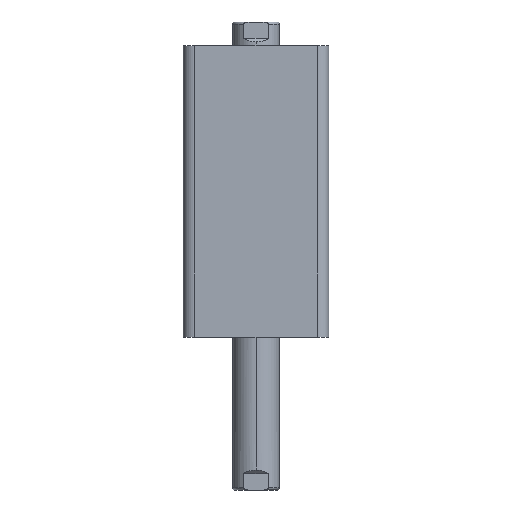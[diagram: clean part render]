
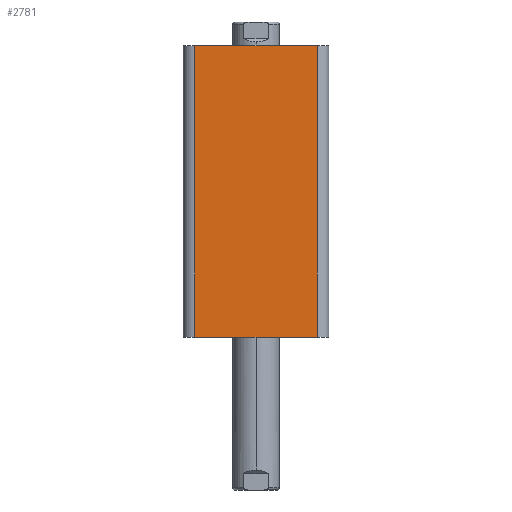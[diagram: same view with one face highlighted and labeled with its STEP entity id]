
A CAD part, left-side view. The second image highlights one B-rep face of the part: STEP entity #2781.
In plain terms, the highlighted planar face has unit normal (-1, 0, 0).
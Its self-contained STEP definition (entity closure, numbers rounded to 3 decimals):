
#83 = VERTEX_POINT ( 'NONE', #320 ) ;
#84 = VERTEX_POINT ( 'NONE', #315 ) ;
#88 = VERTEX_POINT ( 'NONE', #316 ) ;
#89 = VERTEX_POINT ( 'NONE', #321 ) ;
#315 = CARTESIAN_POINT ( 'NONE',  ( -31., 26., 124. ) ) ;
#316 = CARTESIAN_POINT ( 'NONE',  ( -31., -26., 0. ) ) ;
#320 = CARTESIAN_POINT ( 'NONE',  ( -31., -26., 124. ) ) ;
#321 = CARTESIAN_POINT ( 'NONE',  ( -31., 26., 0. ) ) ;
#475 = CARTESIAN_POINT ( 'NONE',  ( -31., 31., 124. ) ) ;
#483 = PLANE ( 'NONE',  #2508 ) ;
#485 = DIRECTION ( 'NONE',  ( 1., 0., 0. ) ) ;
#486 = DIRECTION ( 'NONE',  ( 0., 1., 0. ) ) ;
#732 = LINE ( 'NONE', #2934, #742 ) ;
#737 = LINE ( 'NONE', #2945, #740 ) ;
#740 = VECTOR ( 'NONE', #2946, 1000. ) ;
#741 = LINE ( 'NONE', #2948, #744 ) ;
#742 = VECTOR ( 'NONE', #2947, 1000. ) ;
#743 = LINE ( 'NONE', #2950, #746 ) ;
#744 = VECTOR ( 'NONE', #2949, 1000. ) ;
#746 = VECTOR ( 'NONE', #2951, 1000. ) ;
#1081 = EDGE_CURVE ( 'NONE', #89, #88, #737, .T. ) ;
#1082 = EDGE_CURVE ( 'NONE', #88, #83, #732, .T. ) ;
#1083 = EDGE_CURVE ( 'NONE', #84, #83, #741, .T. ) ;
#1084 = EDGE_CURVE ( 'NONE', #84, #89, #743, .T. ) ;
#1512 = FACE_OUTER_BOUND ( 'NONE', #1588, .T. ) ;
#1588 = EDGE_LOOP ( 'NONE', ( #1623, #1625, #1626, #1635 ) ) ;
#1623 = ORIENTED_EDGE ( 'NONE', *, *, #1081, .T. ) ;
#1625 = ORIENTED_EDGE ( 'NONE', *, *, #1082, .T. ) ;
#1626 = ORIENTED_EDGE ( 'NONE', *, *, #1083, .F. ) ;
#1635 = ORIENTED_EDGE ( 'NONE', *, *, #1084, .T. ) ;
#2508 = AXIS2_PLACEMENT_3D ( 'NONE', #475, #485, #486 ) ;
#2781 = ADVANCED_FACE ( 'NONE', ( #1512 ), #483, .F. ) ;
#2934 = CARTESIAN_POINT ( 'NONE',  ( -31., -26., 124. ) ) ;
#2945 = CARTESIAN_POINT ( 'NONE',  ( -31., 31., 0. ) ) ;
#2946 = DIRECTION ( 'NONE',  ( 0., -1., 0. ) ) ;
#2947 = DIRECTION ( 'NONE',  ( 0., 0., 1. ) ) ;
#2948 = CARTESIAN_POINT ( 'NONE',  ( -31., 31., 124. ) ) ;
#2949 = DIRECTION ( 'NONE',  ( 0., -1., 0. ) ) ;
#2950 = CARTESIAN_POINT ( 'NONE',  ( -31., 26., 124. ) ) ;
#2951 = DIRECTION ( 'NONE',  ( 0., 0., -1. ) ) ;
